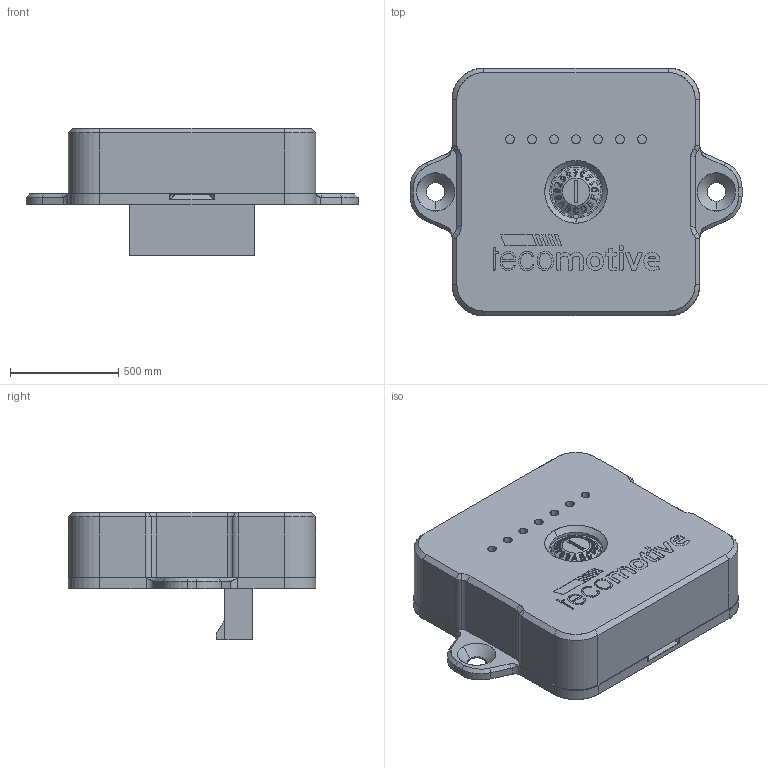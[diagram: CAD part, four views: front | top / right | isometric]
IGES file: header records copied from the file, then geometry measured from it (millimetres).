
Start section: Tecomotive IGES file using analytic representation for surfaces
Global section: file name:                                                                                                                                                               
Bounding box: 1531.62 x 1143 x 586.49 mm (x, y, z)
Surface area: 12852197.1 mm2 (no closed solid volume)
Topology: 0 solids, 0 shells, 2255 faces, 17580 edges, 17576 vertices
Faces by surface type: bspline 1549, revolution 706
